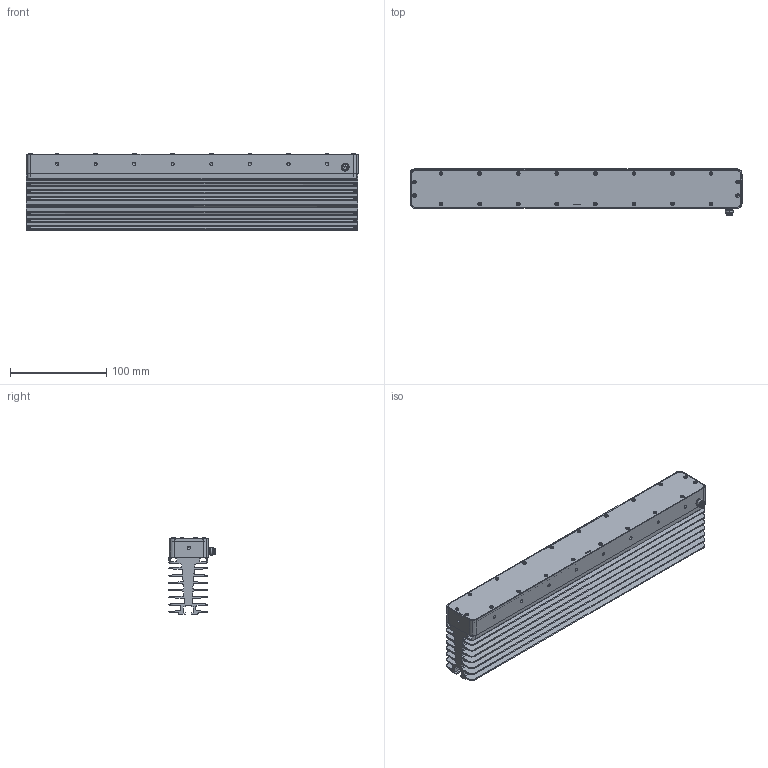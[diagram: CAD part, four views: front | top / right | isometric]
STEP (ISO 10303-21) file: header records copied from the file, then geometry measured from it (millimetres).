
FILE_DESCRIPTION(('STEP AP214'),'1');
FILE_NAME('Power-Line-320 Kundenmodell.stp','2019-08-20T08:28:20',(' '),(' '),'Spatial InterOp 3D',' ',' ');
FILE_SCHEMA(('AUTOMOTIVE_DESIGN { 1 0 10303 214 1 1 1 1 }'));
Length unit declared in the file: millimetre
Products named in the file (1): Volumenkörper
Bounding box: 344.29 x 47.81 x 79.17 mm (x, y, z)
Volume: 565929.6 mm3; surface area: 272020.7 mm2
Topology: 1 solids, 50 shells, 1931 faces, 5325 edges, 3430 vertices
Faces by surface type: cylinder 652, plane 627, cone 414, torus 204, extrusion 18, bspline 12, sphere 4
Entity records: 81358 total; most frequent: CARTESIAN_POINT 17671, ORIENTED_EDGE 10386, DIRECTION 9890, EDGE_CURVE 5193, AXIS2_PLACEMENT_3D 3844, VERTEX_POINT 3430, VECTOR 2202, LINE 2184
